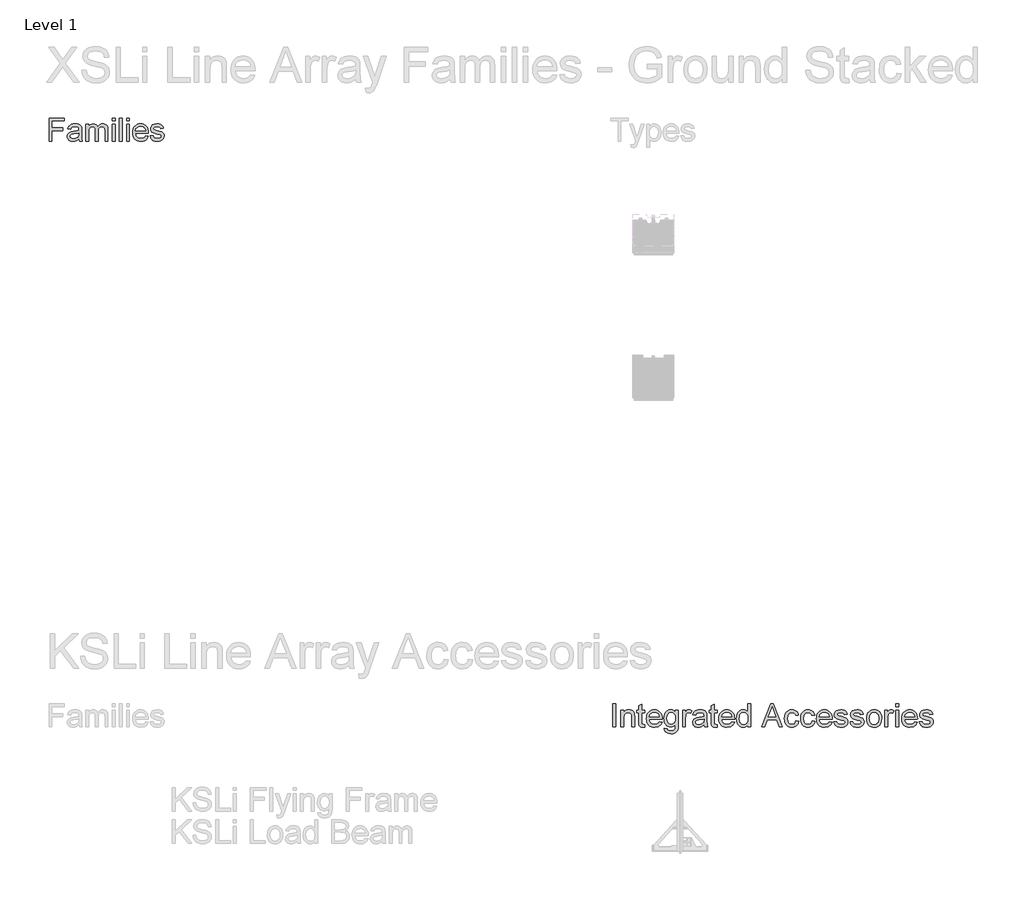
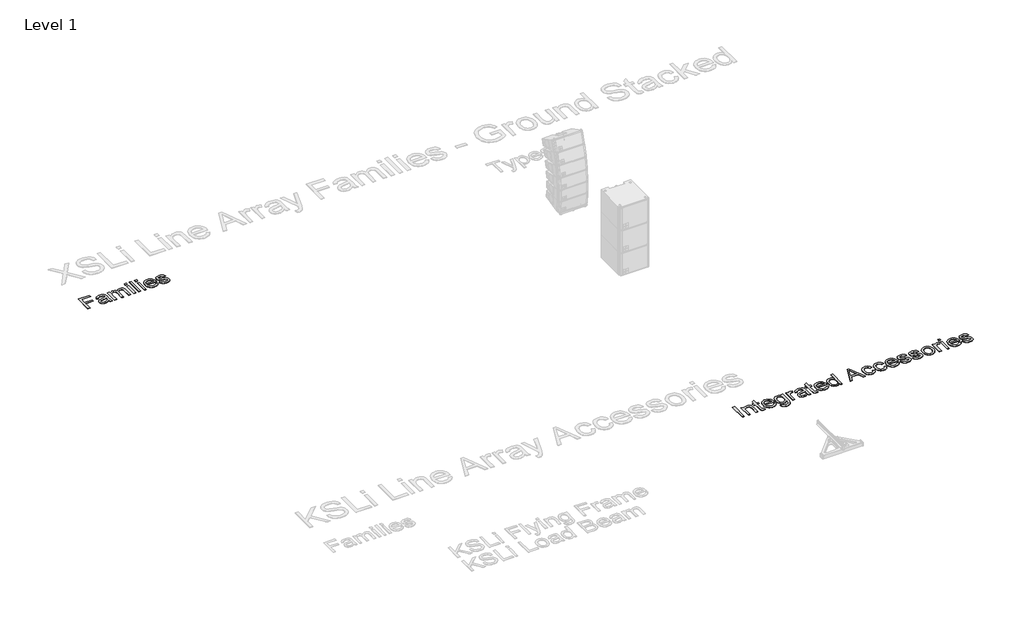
# One storey, part 38 of 52: 2 proxies.
"""IFC4 building model written with IfcOpenShell, lengths in millimetres."""

from ifc_helpers import new_model, si_unit, origin, origin_with_axes, place, context, project, spatial, polyline, outline, extrude, element, save

model = new_model("IFC4")

# Units and contexts
model_context = context("Model", 3, world=origin())
ifc_project = project(units=[si_unit("LENGTHUNIT", "METRE", prefix="MILLI")], contexts=[model_context])

# Site, building, storey
site = spatial("IfcSite", under=ifc_project)
building = spatial("IfcBuilding", under=site)
storey = spatial("IfcBuildingStorey", under=building, Name="Level 1", Elevation=0.0)

# Proxies
placement = place(None, origin())
element("IfcBuildingElementProxy", 1, Name="400mm Arial", ObjectType="400mm Arial", at=placement, inside=storey, context=model_context, shape_type="SweptSolid", body=[
    extrude(outline(polyline([(15562.2235155, -49567.5695164), (15562.2235155, -49175.8119407), (15611.1932125, -49175.8119407), (15611.1932125, -49567.5695164), (15562.2235155, -49567.5695164)])), origin_with_axes(), (0.0, 0.0, 1.0), 5.0),
    extrude(outline(polyline([(15703.0113943, -49567.5695164), (15703.0113943, -49279.8725467), (15751.9810912, -49279.8725467), (15751.9810912, -49320.0430013), (15768.993757, -49299.7903971), (15789.4256935, -49285.3242513), (15813.2769009, -49276.6445638), (15840.5473791, -49273.7513346), (15864.6855183, -49276.0826556), (15886.7912238, -49283.0766187), (15905.2265931, -49293.8604729), (15918.3537238, -49307.5614672), (15927.2605657, -49324.1437352), (15933.0350685, -49343.5714104), (15935.6174549, -49390.9151604), (15935.6174549, -49567.5695164), (15886.6477579, -49567.5695164), (15886.6477579, -49397.5145922), (15885.2370098, -49372.1928592), (15881.0047655, -49354.1878876), (15873.1978289, -49341.2879113), (15861.0630041, -49331.2811642), (15845.5089085, -49324.8610647), (15827.4441594, -49322.7210316), (15798.7629331, -49327.5271395), (15774.3139511, -49341.9454634), (15764.5433249, -49353.7156457), (15757.5643062, -49369.8017607), (15753.376895, -49390.2038086), (15751.9810912, -49414.9217892), (15751.9810912, -49567.5695164), (15703.0113943, -49567.5695164)])), origin_with_axes(), (0.0, 0.0, 1.0), 5.0),
    extrude(outline(polyline([(16107.0113943, -49526.7295543), (16113.1326064, -49569.0041755), (16076.5009776, -49573.6907285), (16052.9964795, -49571.6582948), (16035.4697276, -49565.5609937), (16023.0838375, -49556.1639767), (16015.0019246, -49544.2323952), (16010.5544814, -49523.7406812), (16009.0720003, -49488.6632664), (16009.0720003, -49328.8422437), (15972.3447276, -49328.8422437), (15972.3447276, -49279.8725467), (16009.0720003, -49279.8725467), (16009.0720003, -49209.956827), (16058.0416973, -49181.1680013), (16058.0416973, -49279.8725467), (16107.0113943, -49279.8725467), (16107.0113943, -49328.8422437), (16058.0416973, -49328.8422437), (16058.0416973, -49487.2286073), (16060.6240837, -49512.4786073), (16068.9929284, -49521.4213157), (16085.6827958, -49524.7210316), (16107.0113943, -49526.7295543)])), origin_with_axes(), (0.0, 0.0, 1.0), 5.0),
    extrude(outline(polyline([(16357.4072276, -49481.8725467), (16405.4204852, -49487.9937589), (16398.0588907, -49507.2241684), (16388.1208876, -49524.1710789), (16375.6064759, -49538.8344904), (16360.5156556, -49551.2144028), (16343.0038481, -49561.0477953), (16323.2264748, -49568.0716471), (16276.8750306, -49573.6907285), (16246.4901466, -49571.2667525), (16219.416934, -49563.9948242), (16195.6553928, -49551.8749437), (16175.2055231, -49534.9071111), (16158.7607432, -49513.5635683), (16147.0144719, -49488.3165571), (16139.9667091, -49459.1660777), (16137.6174549, -49426.1121301), (16139.9906201, -49391.937355), (16147.1101159, -49361.8154918), (16158.9759421, -49335.7465406), (16175.5880988, -49313.7305013), (16195.9841689, -49296.2396159), (16219.2017352, -49283.7461263), (16245.2407977, -49276.2500325), (16274.1013564, -49273.7513346), (16302.0323756, -49276.2440548), (16327.2913422, -49283.7222153), (16349.8782562, -49296.1858161), (16369.7931178, -49313.6348573), (16386.0495986, -49335.6030747), (16397.6613706, -49361.6242039), (16404.6284338, -49391.6982451), (16406.9507882, -49425.8251982), (16406.6638564, -49439.0240619), (16186.5871518, -49439.0240619), (16189.4235924, -49458.5653142), (16195.063596, -49475.6796017), (16203.5071625, -49490.3669241), (16214.754292, -49502.6272816), (16243.1724975, -49519.1975941), (16277.83147, -49524.7210316), (16303.8944435, -49522.1625562), (16325.8447276, -49514.4871301), (16343.6823223, -49501.2165335), (16357.4072276, -49481.8725467)]), holes=[polyline([(16186.5871518, -49390.0543649), (16357.9810912, -49390.0543649), (16351.3577484, -49364.1826793), (16338.3740837, -49345.675577), (16325.0197986, -49335.6329634), (16309.8243678, -49328.4596679), (16273.9100685, -49322.7210316), (16240.9009539, -49327.2999852), (16213.6065647, -49341.036846), (16194.6331982, -49362.4491329), (16186.5871518, -49390.0543649)])]), origin_with_axes(), (0.0, 0.0, 1.0), 5.0),
    extrude(outline(polyline([(16443.6780609, -49592.0543649), (16492.6477579, -49598.175577), (16498.0516405, -49613.4786073), (16508.5246518, -49623.9994407), (16529.1120098, -49632.1769975), (16556.0596897, -49634.9028498), (16584.8006935, -49631.8183327), (16606.177114, -49622.5647816), (16621.0019246, -49607.739971), (16630.0880988, -49587.9416755), (16633.4356367, -49530.8422437), (16617.1403005, -49546.9104255), (16598.9559965, -49558.3876982), (16578.8827248, -49565.2740619), (16556.9204852, -49567.5695164), (16530.0714381, -49564.8974639), (16506.4324407, -49556.8813062), (16486.003493, -49543.5210434), (16468.784595, -49524.8166755), (16455.1224561, -49502.3762162), (16445.3637854, -49477.8076793), (16439.508583, -49451.1110647), (16437.5568488, -49422.2863725), (16441.0598081, -49382.749559), (16451.5686859, -49346.3929066), (16468.7128621, -49315.5836026), (16492.1217162, -49292.6888346), (16520.9942304, -49278.4857096), (16554.5293867, -49273.7513346), (16577.4301324, -49276.4293649), (16598.214756, -49284.4634558), (16616.8832574, -49297.8536073), (16633.4356367, -49316.5998195), (16633.4356367, -49279.8725467), (16682.4053337, -49279.8725467), (16682.4053337, -49528.2598573), (16679.0577958, -49585.6103545), (16669.0151821, -49623.3777551), (16651.7155846, -49648.4245117), (16626.597095, -49667.613077), (16594.2096661, -49679.8076793), (16555.1032503, -49683.8725467), (16509.5408687, -49678.1458659), (16490.3911587, -49670.9875148), (16473.6624359, -49660.9658232), (16460.1497406, -49648.0688358), (16450.648113, -49632.2845969), (16445.1575531, -49613.6131066), (16443.6780609, -49592.0543649)]), holes=[polyline([(16486.5265458, -49418.9388346), (16491.751096, -49463.8556196), (16498.2817837, -49481.0506066), (16507.4247465, -49494.7366566), (16518.5403656, -49505.1767903), (16530.9890221, -49512.6340287), (16544.770716, -49517.1083718), (16559.8854473, -49518.5998195), (16588.5666736, -49512.6698952), (16612.2505041, -49494.8801225), (16621.5189996, -49481.3285718), (16628.1393536, -49464.3936168), (16633.4356367, -49420.3734937), (16627.9839321, -49377.9195401), (16621.1693015, -49361.1489731), (16611.6288185, -49347.349346), (16587.5982787, -49328.8781102), (16573.9152177, -49324.2603012), (16559.1202958, -49322.7210316), (16544.5734504, -49324.2363902), (16531.156399, -49328.7824662), (16507.7116784, -49346.9667702), (16498.4431829, -49360.5571762), (16491.8228289, -49377.0826556), (16486.5265458, -49418.9388346)])]), origin_with_axes(), (0.0, 0.0, 1.0), 5.0),
    extrude(outline(polyline([(16755.8598791, -49567.5695164), (16755.8598791, -49279.8725467), (16798.708364, -49279.8725467), (16798.708364, -49322.4340998), (16814.5374359, -49297.7579634), (16829.1231367, -49283.2200846), (16843.7566594, -49276.1185221), (16859.7291973, -49273.7513346), (16884.1184018, -49277.5292702), (16908.8901821, -49288.863077), (16892.5350685, -49332.7636452), (16875.3191594, -49325.231685), (16858.1032503, -49322.7210316), (16843.4816831, -49325.136041), (16830.4143299, -49332.3810695), (16819.8576301, -49343.9061642), (16812.7680231, -49359.1613725), (16806.8141878, -49386.5155392), (16804.8295761, -49416.3564482), (16804.8295761, -49567.5695164), (16755.8598791, -49567.5695164)])), origin_with_axes(), (0.0, 0.0, 1.0), 5.0),
    extrude(outline(polyline([(17123.1326064, -49530.8422437), (17099.7357077, -49550.90356), (17075.6453905, -49564.0306907), (17050.311702, -49571.2757191), (17023.1846897, -49573.6907285), (17001.3808604, -49572.2381362), (16982.2610392, -49567.8803592), (16965.8252259, -49560.6173976), (16952.0734208, -49550.4492513), (16941.2148448, -49538.0215169), (16933.4587191, -49523.979791), (16928.8050437, -49508.3240737), (16927.2538185, -49491.0543649), (16929.597095, -49470.7539388), (16936.6269246, -49452.3185695), (16947.4705562, -49436.5373195), (16961.255239, -49424.1992513), (16995.5435912, -49408.1310695), (17037.9138564, -49400.7664861), (17087.9834587, -49393.019327), (17122.8456746, -49383.9331528), (17123.1326064, -49373.0297437), (17119.7611575, -49351.1751035), (17109.6468109, -49336.8763346), (17087.0270193, -49326.2598573), (17055.5123412, -49322.7210316), (17026.3409397, -49325.0762636), (17005.9687806, -49332.1419596), (16992.0764984, -49345.2093128), (16982.3447276, -49365.5695164), (16933.3750306, -49359.4483043), (16941.8753857, -49332.6680013), (16954.5601632, -49311.6263346), (16972.6129568, -49295.5342418), (16997.2173602, -49283.6026604), (17027.3093346, -49276.214166), (17061.8248412, -49273.7513346), (17094.9295998, -49275.9272342), (17121.1719056, -49282.4549331), (17140.9582456, -49292.2703924), (17154.6951064, -49304.3095732), (17163.8051916, -49319.1941613), (17169.7112049, -49337.5458422), (17172.1023034, -49380.394327), (17172.1023034, -49441.3195164), (17174.5890458, -49526.3948005), (17184.3447276, -49567.5695164), (17135.3750306, -49567.5695164), (17127.5322276, -49550.5448952), (17123.1326064, -49530.8422437)]), holes=[polyline([(17123.1326064, -49432.9028498), (17090.2310912, -49441.0564956), (17044.1307125, -49447.9189482), (17001.9995571, -49455.8573952), (16991.0363706, -49461.2851888), (16982.9185912, -49468.769327), (16977.8972844, -49477.7359464), (16976.2235155, -49487.6111831), (16979.8699407, -49502.1729729), (16990.8092162, -49514.1045543), (17008.8022323, -49522.0669123), (17033.6098791, -49524.7210316), (17059.9119625, -49521.7919359), (17083.1534397, -49513.004649), (17101.9952958, -49500.0568507), (17115.0985155, -49484.646221), (17120.9088848, -49468.769327), (17122.8456746, -49446.771221), (17123.1326064, -49432.9028498)])]), origin_with_axes(), (0.0, 0.0, 1.0), 5.0),
    extrude(outline(polyline([(17343.4962428, -49526.7295543), (17349.6174549, -49569.0041755), (17312.9858261, -49573.6907285), (17289.481328, -49571.6582948), (17271.9545761, -49565.5609937), (17259.5686859, -49556.1639767), (17251.4867731, -49544.2323952), (17247.0393299, -49523.7406812), (17245.5568488, -49488.6632664), (17245.5568488, -49328.8422437), (17208.8295761, -49328.8422437), (17208.8295761, -49279.8725467), (17245.5568488, -49279.8725467), (17245.5568488, -49209.956827), (17294.5265458, -49181.1680013), (17294.5265458, -49279.8725467), (17343.4962428, -49279.8725467), (17343.4962428, -49328.8422437), (17294.5265458, -49328.8422437), (17294.5265458, -49487.2286073), (17297.1089321, -49512.4786073), (17305.4777768, -49521.4213157), (17322.1676443, -49524.7210316), (17343.4962428, -49526.7295543)])), origin_with_axes(), (0.0, 0.0, 1.0), 5.0),
    extrude(outline(polyline([(17593.8920761, -49481.8725467), (17641.9053337, -49487.9937589), (17634.5437392, -49507.2241684), (17624.6057361, -49524.1710789), (17612.0913244, -49538.8344904), (17597.0005041, -49551.2144028), (17579.4886966, -49561.0477953), (17559.7113232, -49568.0716471), (17513.3598791, -49573.6907285), (17482.9749951, -49571.2667525), (17455.9017825, -49563.9948242), (17432.1402413, -49551.8749437), (17411.6903715, -49534.9071111), (17395.2455917, -49513.5635683), (17383.4993204, -49488.3165571), (17376.4515576, -49459.1660777), (17374.1023034, -49426.1121301), (17376.4754686, -49391.937355), (17383.5949643, -49361.8154918), (17395.4607906, -49335.7465406), (17412.0729473, -49313.7305013), (17432.4690174, -49296.2396159), (17455.6865837, -49283.7461263), (17481.7256462, -49276.2500325), (17510.5862049, -49273.7513346), (17538.5172241, -49276.2440548), (17563.7761907, -49283.7222153), (17586.3631047, -49296.1858161), (17606.2779662, -49313.6348573), (17622.5344471, -49335.6030747), (17634.1462191, -49361.6242039), (17641.1132823, -49391.6982451), (17643.4356367, -49425.8251982), (17643.1487049, -49439.0240619), (17423.0720003, -49439.0240619), (17425.9084409, -49458.5653142), (17431.5484445, -49475.6796017), (17439.992011, -49490.3669241), (17451.2391405, -49502.6272816), (17479.657346, -49519.1975941), (17514.3163185, -49524.7210316), (17540.379292, -49522.1625562), (17562.3295761, -49514.4871301), (17580.1671708, -49501.2165335), (17593.8920761, -49481.8725467)]), holes=[polyline([(17423.0720003, -49390.0543649), (17594.4659397, -49390.0543649), (17587.8425969, -49364.1826793), (17574.8589321, -49345.675577), (17561.5046471, -49335.6329634), (17546.3092162, -49328.4596679), (17510.394917, -49322.7210316), (17477.3858024, -49327.2999852), (17450.0914132, -49341.036846), (17431.1180467, -49362.4491329), (17423.0720003, -49390.0543649)])]), origin_with_axes(), (0.0, 0.0, 1.0), 5.0),
    extrude(outline(polyline([(17869.9204852, -49567.5695164), (17869.9204852, -49521.3734937), (17855.2690292, -49544.2622839), (17837.5211007, -49560.6114198), (17816.6766997, -49570.4209014), (17792.7358261, -49573.6907285), (17761.0776821, -49568.9563535), (17732.0975685, -49554.7532285), (17707.5648981, -49532.0736594), (17689.2490837, -49501.909952), (17677.8435439, -49465.4815666), (17674.0416973, -49424.0079634), (17677.5446566, -49383.0484464), (17688.0535344, -49346.0581528), (17705.5563753, -49315.1412494), (17730.0412238, -49292.4019028), (17759.6549786, -49278.4139767), (17792.5445382, -49273.7513346), (17816.503345, -49277.086917), (17837.6884776, -49287.0936642), (17855.6456272, -49302.4325609), (17869.9204852, -49321.7645922), (17869.9204852, -49175.8119407), (17918.8901821, -49175.8119407), (17918.8901821, -49567.5695164), (17869.9204852, -49567.5695164)]), holes=[polyline([(17723.0113943, -49423.8166755), (17728.5348318, -49468.111775), (17735.4391286, -49485.4621833), (17745.1051443, -49499.6144975), (17769.183506, -49518.4443981), (17782.7111457, -49523.1518732), (17797.2310912, -49524.7210316), (17825.266721, -49518.7313299), (17848.7353526, -49500.7622248), (17858.0038481, -49487.2017075), (17864.624202, -49470.4789625), (17869.9204852, -49427.5467892), (17864.5285581, -49380.6095259), (17857.7886492, -49362.5387991), (17848.3527768, -49348.0666755), (17836.9442482, -49336.9779563), (17824.2863706, -49329.0574426), (17810.379144, -49324.3051343), (17795.2225685, -49322.7210316), (17780.4156911, -49324.242368), (17766.8880515, -49328.8063772), (17754.6396495, -49336.4130593), (17743.6704852, -49347.0624142), (17734.6321329, -49360.987574), (17728.176167, -49378.4216708), (17723.0113943, -49423.8166755)])]), origin_with_axes(), (0.0, 0.0, 1.0), 5.0),
    extrude(outline(polyline([(18105.8740837, -49567.5695164), (18262.2519246, -49175.8119407), (18303.9526821, -49175.8119407), (18460.3305231, -49567.5695164), (18408.5871518, -49567.5695164), (18363.7301443, -49445.145274), (18202.3788185, -49445.145274), (18157.6174549, -49567.5695164), (18105.8740837, -49567.5695164)]), holes=[polyline([(18220.3598791, -49396.175577), (18345.8447276, -49396.175577), (18310.552114, -49299.8621301), (18283.1023034, -49224.7816376), (18258.7130988, -49291.4454634), (18220.3598791, -49396.175577)])]), origin_with_axes(), (0.0, 0.0, 1.0), 5.0),
    extrude(outline(polyline([(18690.1629094, -49463.5089104), (18739.1326064, -49469.6301225), (18733.8064345, -49492.7371005), (18725.479434, -49513.1839814), (18714.151605, -49530.9707652), (18699.8229473, -49546.097452), (18683.0972134, -49558.1695105), (18664.5781556, -49566.7924094), (18644.265774, -49571.9661488), (18622.1600685, -49573.6907285), (18594.6953135, -49571.2846857), (18570.069988, -49564.0665571), (18548.284092, -49552.0363429), (18529.3376253, -49535.1940429), (18514.0017174, -49513.8564778), (18503.0474975, -49488.3404681), (18496.4749655, -49458.6460138), (18494.2841215, -49424.7731149), (18498.0261907, -49381.195345), (18509.2523981, -49343.4279445), (18528.1420761, -49312.9294833), (18554.8745571, -49291.1585316), (18586.8554994, -49278.1031339), (18621.4905609, -49273.7513346), (18643.2166795, -49275.2457712), (18662.8685202, -49279.7290808), (18680.446083, -49287.2012636), (18695.9493678, -49297.6623195), (18709.1153538, -49310.8731386), (18719.6810202, -49326.5946111), (18727.646367, -49344.8267371), (18733.0113943, -49365.5695164), (18684.0416973, -49371.6907285), (18675.1587664, -49350.3262636), (18661.3262617, -49335.0112778), (18643.3093346, -49325.7935931), (18621.8731367, -49322.7210316), (18605.2340801, -49324.2334014), (18590.2269482, -49328.7705107), (18576.8517411, -49336.3323597), (18565.1084587, -49346.9189482), (18555.5470536, -49360.775364), (18548.7174786, -49378.1466945), (18543.2538185, -49423.4340998), (18548.5979236, -49469.3312352), (18555.278055, -49486.8191317), (18564.630239, -49500.6665808), (18576.1403893, -49511.190403), (18589.2944198, -49518.7074189), (18604.0923306, -49523.2176284), (18620.5341215, -49524.7210316), (18645.891721, -49520.967007), (18666.6823223, -49509.7049331), (18681.8060202, -49490.6478782), (18690.1629094, -49463.5089104)])), origin_with_axes(), (0.0, 0.0, 1.0), 5.0),
    extrude(outline(polyline([(18965.6174549, -49463.5089104), (19014.5871518, -49469.6301225), (19009.26098, -49492.7371005), (19000.9339795, -49513.1839814), (18989.6061504, -49530.9707652), (18975.2774928, -49546.097452), (18958.5517589, -49558.1695105), (18940.0327011, -49566.7924094), (18919.7203195, -49571.9661488), (18897.614614, -49573.6907285), (18870.149859, -49571.2846857), (18845.5245335, -49564.0665571), (18823.7386374, -49552.0363429), (18804.7921708, -49535.1940429), (18789.4562629, -49513.8564778), (18778.5020429, -49488.3404681), (18771.929511, -49458.6460138), (18769.738667, -49424.7731149), (18773.4807361, -49381.195345), (18784.7069435, -49343.4279445), (18803.5966215, -49312.9294833), (18830.3291026, -49291.1585316), (18862.3100448, -49278.1031339), (18896.9451064, -49273.7513346), (18918.671225, -49275.2457712), (18938.3230657, -49279.7290808), (18955.9006284, -49287.2012636), (18971.4039132, -49297.6623195), (18984.5698992, -49310.8731386), (18995.1355657, -49326.5946111), (19003.1009125, -49344.8267371), (19008.4659397, -49365.5695164), (18959.4962428, -49371.6907285), (18950.6133119, -49350.3262636), (18936.7808071, -49335.0112778), (18918.7638801, -49325.7935931), (18897.3276821, -49322.7210316), (18880.6886256, -49324.2334014), (18865.6814937, -49328.7705107), (18852.3062866, -49336.3323597), (18840.5630041, -49346.9189482), (18831.0015991, -49360.775364), (18824.172024, -49378.1466945), (18818.708364, -49423.4340998), (18824.0524691, -49469.3312352), (18830.7326005, -49486.8191317), (18840.0847844, -49500.6665808), (18851.5949348, -49511.190403), (18864.7489653, -49518.7074189), (18879.546876, -49523.2176284), (18895.988667, -49524.7210316), (18921.3462664, -49520.967007), (18942.1368678, -49509.7049331), (18957.2605657, -49490.6478782), (18965.6174549, -49463.5089104)])), origin_with_axes(), (0.0, 0.0, 1.0), 5.0),
    extrude(outline(polyline([(19258.8617731, -49481.8725467), (19306.8750306, -49487.9937589), (19299.5134362, -49507.2241684), (19289.5754331, -49524.1710789), (19277.0610214, -49538.8344904), (19261.9702011, -49551.2144028), (19244.4583936, -49561.0477953), (19224.6810202, -49568.0716471), (19178.3295761, -49573.6907285), (19147.9446921, -49571.2667525), (19120.8714795, -49563.9948242), (19097.1099383, -49551.8749437), (19076.6600685, -49534.9071111), (19060.2152887, -49513.5635683), (19048.4690174, -49488.3165571), (19041.4212546, -49459.1660777), (19039.0720003, -49426.1121301), (19041.4451656, -49391.937355), (19048.5646613, -49361.8154918), (19060.4304875, -49335.7465406), (19077.0426443, -49313.7305013), (19097.4387143, -49296.2396159), (19120.6562806, -49283.7461263), (19146.6953431, -49276.2500325), (19175.5559018, -49273.7513346), (19203.486921, -49276.2440548), (19228.7458876, -49283.7222153), (19251.3328017, -49296.1858161), (19271.2476632, -49313.6348573), (19287.504144, -49335.6030747), (19299.1159161, -49361.6242039), (19306.0829793, -49391.6982451), (19308.4053337, -49425.8251982), (19308.1184018, -49439.0240619), (19088.0416973, -49439.0240619), (19090.8781379, -49458.5653142), (19096.5181414, -49475.6796017), (19104.961708, -49490.3669241), (19116.2088375, -49502.6272816), (19144.6270429, -49519.1975941), (19179.2860155, -49524.7210316), (19205.348989, -49522.1625562), (19227.2992731, -49514.4871301), (19245.1368678, -49501.2165335), (19258.8617731, -49481.8725467)]), holes=[polyline([(19088.0416973, -49390.0543649), (19259.4356367, -49390.0543649), (19252.8122939, -49364.1826793), (19239.8286291, -49345.675577), (19226.4743441, -49335.6329634), (19211.2789132, -49328.4596679), (19175.364614, -49322.7210316), (19142.3554994, -49327.2999852), (19115.0611102, -49341.036846), (19096.0877437, -49362.4491329), (19088.0416973, -49390.0543649)])]), origin_with_axes(), (0.0, 0.0, 1.0), 5.0),
    extrude(outline(polyline([(19339.0113943, -49481.8725467), (19387.9810912, -49475.7513346), (19395.7043393, -49496.6973573), (19410.6487049, -49512.0960316), (19432.9098318, -49521.5647816), (19462.583364, -49524.7210316), (19491.8982314, -49521.8278024), (19512.5095003, -49513.1481149), (19524.7041026, -49500.5709369), (19528.76897, -49485.9852361), (19524.6801916, -49473.503702), (19512.4138564, -49463.9871301), (19462.0095003, -49450.0231149), (19388.2680231, -49426.0643081), (19369.6054994, -49414.0251272), (19356.0838375, -49398.0884558), (19347.8704142, -49379.2705107), (19345.1326064, -49358.5875089), (19347.332417, -49339.6141424), (19353.9318488, -49322.099346), (19364.3331272, -49306.7365382), (19377.9384776, -49294.2191376), (19409.0705799, -49279.7290808), (19451.2017352, -49273.7513346), (19483.075078, -49276.1543886), (19510.7879094, -49283.3635505), (19533.0729473, -49294.6734464), (19548.6629094, -49309.378702), (19558.9924549, -49328.5672674), (19565.4962428, -49353.3270922), (19516.5265458, -49359.4483043), (19510.3455562, -49344.0376746), (19498.1150875, -49332.4288914), (19479.7155846, -49325.1479965), (19455.0274928, -49322.7210316), (19426.9081746, -49325.0403971), (19408.1619625, -49331.9984937), (19397.6172181, -49342.0411073), (19394.1023034, -49353.614024), (19399.9365837, -49367.864971), (19418.2045761, -49378.6727361), (19460.3835534, -49389.0979255), (19532.2599738, -49412.1481149), (19551.2452958, -49423.1710789), (19565.6397087, -49438.2589104), (19574.7139274, -49457.4594312), (19577.738667, -49480.8204634), (19574.1878857, -49504.9705581), (19563.535542, -49527.6859937), (19546.1881225, -49547.1854018), (19522.552114, -49561.6874142), (19494.0023981, -49570.6899), (19461.9138564, -49573.6907285), (19435.5579733, -49572.244114), (19412.5376727, -49567.9042702), (19392.8529544, -49560.6711973), (19376.5038185, -49550.5448952), (19363.1495335, -49537.5731859), (19352.4493678, -49521.8038914), (19344.4033214, -49503.2370117), (19339.0113943, -49481.8725467)])), origin_with_axes(), (0.0, 0.0, 1.0), 5.0),
    extrude(outline(polyline([(19614.4659397, -49481.8725467), (19663.4356367, -49475.7513346), (19671.1588848, -49496.6973573), (19686.1032503, -49512.0960316), (19708.3643772, -49521.5647816), (19738.0379094, -49524.7210316), (19767.3527768, -49521.8278024), (19787.9640458, -49513.1481149), (19800.1586481, -49500.5709369), (19804.2235155, -49485.9852361), (19800.1347371, -49473.503702), (19787.8684018, -49463.9871301), (19737.4640458, -49450.0231149), (19663.7225685, -49426.0643081), (19645.0600448, -49414.0251272), (19631.5383829, -49398.0884558), (19623.3249596, -49379.2705107), (19620.5871518, -49358.5875089), (19622.7869625, -49339.6141424), (19629.3863943, -49322.099346), (19639.7876727, -49306.7365382), (19653.3930231, -49294.2191376), (19684.5251253, -49279.7290808), (19726.6562806, -49273.7513346), (19758.5296234, -49276.1543886), (19786.2424549, -49283.3635505), (19808.5274928, -49294.6734464), (19824.1174549, -49309.378702), (19834.4470003, -49328.5672674), (19840.9507882, -49353.3270922), (19791.9810912, -49359.4483043), (19785.8001017, -49344.0376746), (19773.5696329, -49332.4288914), (19755.1701301, -49325.1479965), (19730.4820382, -49322.7210316), (19702.36272, -49325.0403971), (19683.6165079, -49331.9984937), (19673.0717636, -49342.0411073), (19669.5568488, -49353.614024), (19675.3911291, -49367.864971), (19693.6591215, -49378.6727361), (19735.8380988, -49389.0979255), (19807.7145193, -49412.1481149), (19826.6998412, -49423.1710789), (19841.0942541, -49438.2589104), (19850.1684729, -49457.4594312), (19853.1932125, -49480.8204634), (19849.6424312, -49504.9705581), (19838.9900875, -49527.6859937), (19821.6426679, -49547.1854018), (19798.0066594, -49561.6874142), (19769.4569435, -49570.6899), (19737.3684018, -49573.6907285), (19711.0125188, -49572.244114), (19687.9922181, -49567.9042702), (19668.3074999, -49560.6711973), (19651.958364, -49550.5448952), (19638.6040789, -49537.5731859), (19627.9039132, -49521.8038914), (19619.8578668, -49503.2370117), (19614.4659397, -49481.8725467)])), origin_with_axes(), (0.0, 0.0, 1.0), 5.0),
    extrude(outline(polyline([(19896.0416973, -49423.7210316), (19898.6898389, -49386.4617394), (19906.6342636, -49354.3552645), (19919.8749714, -49327.4016069), (19938.4119625, -49305.6007664), (19957.0744861, -49291.66664), (19977.6737996, -49281.7136926), (20000.2099028, -49275.7419241), (20024.6827958, -49273.7513346), (20051.6992198, -49276.1753107), (20076.1272797, -49283.447239), (20097.9669755, -49295.5671194), (20117.2183071, -49312.534952), (20132.9308131, -49333.7768732), (20144.1540316, -49358.7190193), (20150.8879627, -49387.3613902), (20153.1326064, -49419.7039861), (20149.1633829, -49469.1758138), (20137.2557125, -49506.8356149), (20117.7563043, -49535.0386215), (20091.0118678, -49556.1400657), (20059.2461244, -49569.3030628), (20024.6827958, -49573.6907285), (19997.2718405, -49571.2757191), (19972.6166263, -49564.0306907), (19950.717153, -49551.9556433), (19931.5734208, -49535.050577), (19916.0282918, -49513.6024236), (19904.9246282, -49487.8981149), (19898.26243, -49457.9376509), (19896.0416973, -49423.7210316)]), holes=[polyline([(19945.0113943, -49423.6253876), (19946.4281201, -49447.3779622), (19950.6782977, -49467.9443981), (19957.7619269, -49485.3246952), (19967.6790079, -49499.5188535), (19979.7420998, -49510.5448064), (19993.2637617, -49518.4204871), (20008.2439937, -49523.1458955), (20024.6827958, -49524.7210316), (20041.0379094, -49523.1369288), (20055.958364, -49518.3846206), (20069.4441594, -49510.4641069), (20081.4952958, -49499.3753876), (20091.4123768, -49485.0407522), (20098.496006, -49467.3824899), (20102.7461836, -49446.4006007), (20104.1629094, -49422.0950846), (20102.737217, -49399.0957061), (20098.4601395, -49379.0672674), (20091.3316772, -49362.0097686), (20081.3518299, -49347.9232096), (20069.2558604, -49336.8972567), (20055.7790316, -49329.0215761), (20040.9213434, -49324.2961677), (20024.6827958, -49322.7210316), (20008.2439937, -49324.29019), (19993.2637617, -49328.9976651), (19979.7420998, -49336.843457), (19967.6790079, -49347.8275657), (19957.7619269, -49361.9798798), (19950.6782977, -49379.3302882), (19946.4281201, -49399.8787908), (19945.0113943, -49423.6253876)])]), origin_with_axes(), (0.0, 0.0, 1.0), 5.0),
    extrude(outline(polyline([(20208.2235155, -49567.5695164), (20208.2235155, -49279.8725467), (20251.0720003, -49279.8725467), (20251.0720003, -49322.4340998), (20266.9010723, -49297.7579634), (20281.4867731, -49283.2200846), (20296.1202958, -49276.1185221), (20312.0928337, -49273.7513346), (20336.4820382, -49277.5292702), (20361.2538185, -49288.863077), (20344.8987049, -49332.7636452), (20327.6827958, -49325.231685), (20310.4668867, -49322.7210316), (20295.8453195, -49325.136041), (20282.7779662, -49332.3810695), (20272.2212664, -49343.9061642), (20265.1316594, -49359.1613725), (20259.1778242, -49386.5155392), (20257.1932125, -49416.3564482), (20257.1932125, -49567.5695164), (20208.2235155, -49567.5695164)])), origin_with_axes(), (0.0, 0.0, 1.0), 5.0),
    extrude(outline(polyline([(20391.8598791, -49224.7816376), (20391.8598791, -49175.8119407), (20440.8295761, -49175.8119407), (20440.8295761, -49224.7816376), (20391.8598791, -49224.7816376)])), origin_with_axes(), (0.0, 0.0, 1.0), 5.0),
    extrude(outline(polyline([(20391.8598791, -49567.5695164), (20391.8598791, -49279.8725467), (20440.8295761, -49279.8725467), (20440.8295761, -49567.5695164), (20391.8598791, -49567.5695164)])), origin_with_axes(), (0.0, 0.0, 1.0), 5.0),
    extrude(outline(polyline([(20715.7102579, -49481.8725467), (20763.7235155, -49487.9937589), (20756.361921, -49507.2241684), (20746.4239179, -49524.1710789), (20733.9095062, -49538.8344904), (20718.8186859, -49551.2144028), (20701.3068784, -49561.0477953), (20681.5295051, -49568.0716471), (20635.1780609, -49573.6907285), (20604.7931769, -49571.2667525), (20577.7199643, -49563.9948242), (20553.9584232, -49551.8749437), (20533.5085534, -49534.9071111), (20517.0637735, -49513.5635683), (20505.3175022, -49488.3165571), (20498.2697394, -49459.1660777), (20495.9204852, -49426.1121301), (20498.2936504, -49391.937355), (20505.4131462, -49361.8154918), (20517.2789724, -49335.7465406), (20533.8911291, -49313.7305013), (20554.2871992, -49296.2396159), (20577.5047655, -49283.7461263), (20603.543828, -49276.2500325), (20632.4043867, -49273.7513346), (20660.3354059, -49276.2440548), (20685.5943725, -49283.7222153), (20708.1812866, -49296.1858161), (20728.0961481, -49313.6348573), (20744.3526289, -49335.6030747), (20755.9644009, -49361.6242039), (20762.9314641, -49391.6982451), (20765.2538185, -49425.8251982), (20764.9668867, -49439.0240619), (20544.8901821, -49439.0240619), (20547.7266227, -49458.5653142), (20553.3666263, -49475.6796017), (20561.8101928, -49490.3669241), (20573.0573223, -49502.6272816), (20601.4755278, -49519.1975941), (20636.1345003, -49524.7210316), (20662.1974738, -49522.1625562), (20684.1477579, -49514.4871301), (20701.9853526, -49501.2165335), (20715.7102579, -49481.8725467)]), holes=[polyline([(20544.8901821, -49390.0543649), (20716.2841215, -49390.0543649), (20709.6607787, -49364.1826793), (20696.677114, -49345.675577), (20683.3228289, -49335.6329634), (20668.1273981, -49328.4596679), (20632.2130988, -49322.7210316), (20599.2039842, -49327.2999852), (20571.909595, -49341.036846), (20552.9362286, -49362.4491329), (20544.8901821, -49390.0543649)])]), origin_with_axes(), (0.0, 0.0, 1.0), 5.0),
    extrude(outline(polyline([(20795.8598791, -49481.8725467), (20844.8295761, -49475.7513346), (20852.5528242, -49496.6973573), (20867.4971897, -49512.0960316), (20889.7583166, -49521.5647816), (20919.4318488, -49524.7210316), (20948.7467162, -49521.8278024), (20969.3579852, -49513.1481149), (20981.5525875, -49500.5709369), (20985.6174549, -49485.9852361), (20981.5286765, -49473.503702), (20969.2623412, -49463.9871301), (20918.8579852, -49450.0231149), (20845.1165079, -49426.0643081), (20826.4539842, -49414.0251272), (20812.9323223, -49398.0884558), (20804.718899, -49379.2705107), (20801.9810912, -49358.5875089), (20804.1809018, -49339.6141424), (20810.7803337, -49322.099346), (20821.1816121, -49306.7365382), (20834.7869625, -49294.2191376), (20865.9190647, -49279.7290808), (20908.05022, -49273.7513346), (20939.9235628, -49276.1543886), (20967.6363943, -49283.3635505), (20989.9214321, -49294.6734464), (21005.5113943, -49309.378702), (21015.8409397, -49328.5672674), (21022.3447276, -49353.3270922), (20973.3750306, -49359.4483043), (20967.1940411, -49344.0376746), (20954.9635723, -49332.4288914), (20936.5640695, -49325.1479965), (20911.8759776, -49322.7210316), (20883.7566594, -49325.0403971), (20865.0104473, -49331.9984937), (20854.465703, -49342.0411073), (20850.9507882, -49353.614024), (20856.7850685, -49367.864971), (20875.0530609, -49378.6727361), (20917.2320382, -49389.0979255), (20989.1084587, -49412.1481149), (21008.0937806, -49423.1710789), (21022.4881935, -49438.2589104), (21031.5624123, -49457.4594312), (21034.5871518, -49480.8204634), (21031.0363706, -49504.9705581), (21020.3840268, -49527.6859937), (21003.0366073, -49547.1854018), (20979.4005988, -49561.6874142), (20950.8508829, -49570.6899), (20918.7623412, -49573.6907285), (20892.4064582, -49572.244114), (20869.3861575, -49567.9042702), (20849.7014393, -49560.6711973), (20833.3523034, -49550.5448952), (20819.9980183, -49537.5731859), (20809.2978526, -49521.8038914), (20801.2518062, -49503.2370117), (20795.8598791, -49481.8725467)])), origin_with_axes(), (0.0, 0.0, 1.0), 5.0),
])
element("IfcBuildingElementProxy", 2, Name="400mm Arial", ObjectType="400mm Arial", at=placement, inside=storey, context=model_context, shape_type="SweptSolid", body=[
    extrude(outline(polyline([(5943.279109, -39567.5695164), (5943.279109, -39175.8119407), (6206.4912302, -39175.8119407), (6206.4912302, -39224.7816376), (5992.2488059, -39224.7816376), (5992.2488059, -39341.0846679), (6175.8851696, -39341.0846679), (6175.8851696, -39390.0543649), (5992.2488059, -39390.0543649), (5992.2488059, -39567.5695164), (5943.279109, -39567.5695164)])), origin_with_axes(), (0.0, 0.0, 1.0), 5.0),
    extrude(outline(polyline([(6451.339715, -39530.8422437), (6427.9428164, -39550.90356), (6403.8524991, -39564.0306907), (6378.5188107, -39571.2757191), (6351.3917984, -39573.6907285), (6329.5879691, -39572.2381362), (6310.4681478, -39567.8803592), (6294.0323346, -39560.6173976), (6280.2805294, -39550.4492513), (6269.4219534, -39538.0215169), (6261.6658277, -39523.979791), (6257.0121523, -39508.3240737), (6255.4609271, -39491.0543649), (6257.8042037, -39470.7539388), (6264.8340332, -39452.3185695), (6275.6776648, -39436.5373195), (6289.4623476, -39424.1992513), (6323.7506999, -39408.1310695), (6366.120965, -39400.7664861), (6416.1905673, -39393.019327), (6451.0527832, -39383.9331528), (6451.339715, -39373.0297437), (6447.9682662, -39351.1751035), (6437.8539196, -39336.8763346), (6415.2341279, -39326.2598573), (6383.7194499, -39322.7210316), (6354.5480484, -39325.0762636), (6334.1758893, -39332.1419596), (6320.2836071, -39345.2093128), (6310.5518362, -39365.5695164), (6261.5821393, -39359.4483043), (6270.0824944, -39332.6680013), (6282.7672718, -39311.6263346), (6300.8200654, -39295.5342418), (6325.4244688, -39283.6026604), (6355.5164432, -39276.214166), (6390.0319499, -39273.7513346), (6423.1367084, -39275.9272342), (6449.3790143, -39282.4549331), (6469.1653542, -39292.2703924), (6482.902215, -39304.3095732), (6492.0123003, -39319.1941613), (6497.9183135, -39337.5458422), (6500.309412, -39380.394327), (6500.309412, -39441.3195164), (6502.7961544, -39526.3948005), (6512.5518362, -39567.5695164), (6463.5821393, -39567.5695164), (6455.7393362, -39550.5448952), (6451.339715, -39530.8422437)]), holes=[polyline([(6451.339715, -39432.9028498), (6418.4381999, -39441.0564956), (6372.3378211, -39447.9189482), (6330.2066658, -39455.8573952), (6319.2434792, -39461.2851888), (6311.1256999, -39468.769327), (6306.1043931, -39477.7359464), (6304.4306241, -39487.6111831), (6308.0770493, -39502.1729729), (6319.0163249, -39514.1045543), (6337.009341, -39522.0669123), (6361.8169878, -39524.7210316), (6388.1190711, -39521.7919359), (6411.3605484, -39513.004649), (6430.2024044, -39500.0568507), (6443.3056241, -39484.646221), (6449.1159934, -39468.769327), (6451.0527832, -39446.771221), (6451.339715, -39432.9028498)])]), origin_with_axes(), (0.0, 0.0, 1.0), 5.0),
    extrude(outline(polyline([(6567.6427453, -39567.5695164), (6567.6427453, -39279.8725467), (6616.6124423, -39279.8725467), (6616.6124423, -39327.2162967), (6631.341609, -39305.469256), (6650.279109, -39288.4326793), (6672.7793457, -39277.4216708), (6698.1967226, -39273.7513346), (6725.4313343, -39277.4934037), (6747.2620635, -39288.7196111), (6763.5693552, -39306.6887162), (6774.2336544, -39330.6594785), (6792.0832046, -39305.7621656), (6812.4434082, -39287.9783706), (6835.3142652, -39277.3080936), (6860.6957756, -39273.7513346), (6880.2997943, -39275.2308268), (6897.5067368, -39279.6693034), (6912.316603, -39287.0667643), (6924.7293931, -39297.4232096), (6934.5418635, -39310.8581942), (6941.5507709, -39327.4912731), (6945.7561154, -39347.3224461), (6947.1578968, -39370.3517134), (6947.1578968, -39567.5695164), (6898.1881999, -39567.5695164), (6898.1881999, -39391.3933801), (6893.6451128, -39350.505596), (6887.2608798, -39339.2315666), (6877.1943552, -39330.3725467), (6864.2465569, -39324.6339104), (6849.2185029, -39322.7210316), (6822.6892652, -39327.6227835), (6801.0617794, -39342.3280392), (6792.6720126, -39353.6080463), (6786.679322, -39367.84106), (6781.8851696, -39405.1661073), (6781.8851696, -39567.5695164), (6732.9154726, -39567.5695164), (6732.9154726, -39385.9416755), (6730.0820209, -39358.2527551), (6721.5816658, -39338.5022816), (6706.6253448, -39326.6663441), (6684.4239953, -39322.7210316), (6665.5582283, -39325.3512399), (6648.1749423, -39333.2418649), (6633.8283514, -39346.2016187), (6624.0726696, -39364.0392134), (6618.4774991, -39388.7870827), (6616.6124423, -39422.4776604), (6616.6124423, -39567.5695164), (6567.6427453, -39567.5695164)])), origin_with_axes(), (0.0, 0.0, 1.0), 5.0),
    extrude(outline(polyline([(7020.6124423, -39224.7816376), (7020.6124423, -39175.8119407), (7069.5821393, -39175.8119407), (7069.5821393, -39224.7816376), (7020.6124423, -39224.7816376)])), origin_with_axes(), (0.0, 0.0, 1.0), 5.0),
    extrude(outline(polyline([(7020.6124423, -39567.5695164), (7020.6124423, -39279.8725467), (7069.5821393, -39279.8725467), (7069.5821393, -39567.5695164), (7020.6124423, -39567.5695164)])), origin_with_axes(), (0.0, 0.0, 1.0), 5.0),
    extrude(outline(polyline([(7143.0366847, -39567.5695164), (7143.0366847, -39175.8119407), (7192.0063817, -39175.8119407), (7192.0063817, -39567.5695164), (7143.0366847, -39567.5695164)])), origin_with_axes(), (0.0, 0.0, 1.0), 5.0),
    extrude(outline(polyline([(7265.4609271, -39224.7816376), (7265.4609271, -39175.8119407), (7314.4306241, -39175.8119407), (7314.4306241, -39224.7816376), (7265.4609271, -39224.7816376)])), origin_with_axes(), (0.0, 0.0, 1.0), 5.0),
    extrude(outline(polyline([(7265.4609271, -39567.5695164), (7265.4609271, -39279.8725467), (7314.4306241, -39279.8725467), (7314.4306241, -39567.5695164), (7265.4609271, -39567.5695164)])), origin_with_axes(), (0.0, 0.0, 1.0), 5.0),
    extrude(outline(polyline([(7589.3113059, -39481.8725467), (7637.3245635, -39487.9937589), (7629.9629691, -39507.2241684), (7620.024966, -39524.1710789), (7607.5105543, -39538.8344904), (7592.419734, -39551.2144028), (7574.9079264, -39561.0477953), (7555.1305531, -39568.0716471), (7508.779109, -39573.6907285), (7478.394225, -39571.2667525), (7451.3210124, -39563.9948242), (7427.5594712, -39551.8749437), (7407.1096014, -39534.9071111), (7390.6648216, -39513.5635683), (7378.9185503, -39488.3165571), (7371.8707875, -39459.1660777), (7369.5215332, -39426.1121301), (7371.8946985, -39391.937355), (7379.0141942, -39361.8154918), (7390.8800204, -39335.7465406), (7407.4921771, -39313.7305013), (7427.8882472, -39296.2396159), (7451.1058135, -39283.7461263), (7477.144876, -39276.2500325), (7506.0054347, -39273.7513346), (7533.9364539, -39276.2440548), (7559.1954205, -39283.7222153), (7581.7823346, -39296.1858161), (7601.6971961, -39313.6348573), (7617.9536769, -39335.6030747), (7629.5654489, -39361.6242039), (7636.5325121, -39391.6982451), (7638.8548665, -39425.8251982), (7638.5679347, -39439.0240619), (7418.4912302, -39439.0240619), (7421.3276708, -39458.5653142), (7426.9676743, -39475.6796017), (7435.4112408, -39490.3669241), (7446.6583703, -39502.6272816), (7475.0765758, -39519.1975941), (7509.7355484, -39524.7210316), (7535.7985218, -39522.1625562), (7557.7488059, -39514.4871301), (7575.5864006, -39501.2165335), (7589.3113059, -39481.8725467)]), holes=[polyline([(7418.4912302, -39390.0543649), (7589.8851696, -39390.0543649), (7583.2618268, -39364.1826793), (7570.278162, -39345.675577), (7556.923877, -39335.6329634), (7541.7284461, -39328.4596679), (7505.8141468, -39322.7210316), (7472.8050323, -39327.2999852), (7445.5106431, -39341.036846), (7426.5372766, -39362.4491329), (7418.4912302, -39390.0543649)])]), origin_with_axes(), (0.0, 0.0, 1.0), 5.0),
    extrude(outline(polyline([(7669.4609271, -39481.8725467), (7718.4306241, -39475.7513346), (7726.1538722, -39496.6973573), (7741.0982378, -39512.0960316), (7763.3593646, -39521.5647816), (7793.0328968, -39524.7210316), (7822.3477643, -39521.8278024), (7842.9590332, -39513.1481149), (7855.1536355, -39500.5709369), (7859.2185029, -39485.9852361), (7855.1297245, -39473.503702), (7842.8633893, -39463.9871301), (7792.4590332, -39450.0231149), (7718.7175559, -39426.0643081), (7700.0550323, -39414.0251272), (7686.5333703, -39398.0884558), (7678.319947, -39379.2705107), (7675.5821393, -39358.5875089), (7677.7819499, -39339.6141424), (7684.3813817, -39322.099346), (7694.7826601, -39306.7365382), (7708.3880105, -39294.2191376), (7739.5201128, -39279.7290808), (7781.6512681, -39273.7513346), (7813.5246109, -39276.1543886), (7841.2374423, -39283.3635505), (7863.5224802, -39294.6734464), (7879.1124423, -39309.378702), (7889.4419878, -39328.5672674), (7895.9457756, -39353.3270922), (7846.9760787, -39359.4483043), (7840.7950891, -39344.0376746), (7828.5646203, -39332.4288914), (7810.1651175, -39325.1479965), (7785.4770256, -39322.7210316), (7757.3577075, -39325.0403971), (7738.6114953, -39331.9984937), (7728.066751, -39342.0411073), (7724.5518362, -39353.614024), (7730.3861165, -39367.864971), (7748.654109, -39378.6727361), (7790.8330862, -39389.0979255), (7862.7095067, -39412.1481149), (7881.6948287, -39423.1710789), (7896.0892415, -39438.2589104), (7905.1634603, -39457.4594312), (7908.1881999, -39480.8204634), (7904.6374186, -39504.9705581), (7893.9850749, -39527.6859937), (7876.6376554, -39547.1854018), (7853.0016468, -39561.6874142), (7824.4519309, -39570.6899), (7792.3633893, -39573.6907285), (7766.0075062, -39572.244114), (7742.9872056, -39567.9042702), (7723.3024873, -39560.6711973), (7706.9533514, -39550.5448952), (7693.5990664, -39537.5731859), (7682.8989006, -39521.8038914), (7674.8528542, -39503.2370117), (7669.4609271, -39481.8725467)])), origin_with_axes(), (0.0, 0.0, 1.0), 5.0),
])

save(model, "model.ifc")
